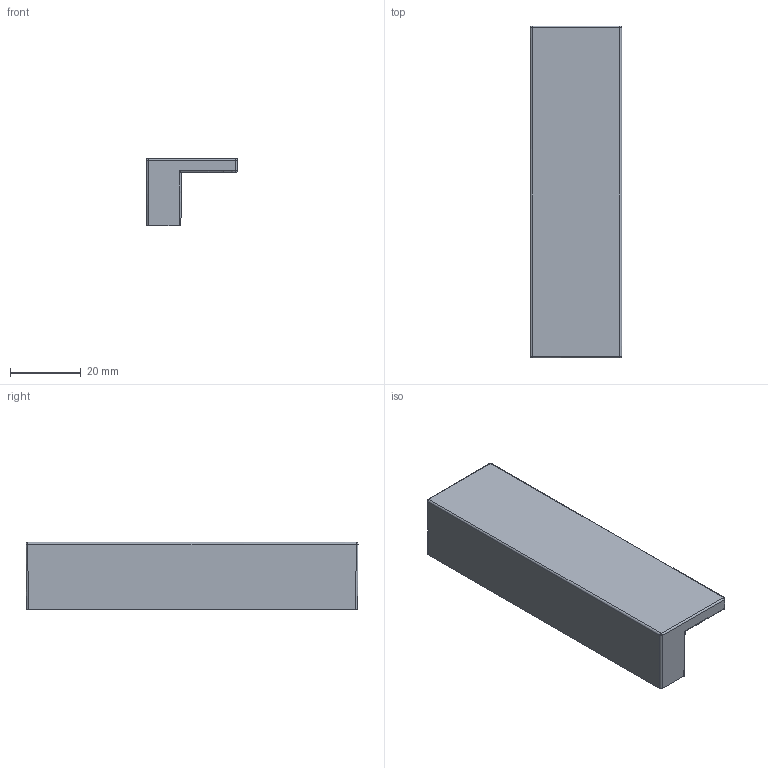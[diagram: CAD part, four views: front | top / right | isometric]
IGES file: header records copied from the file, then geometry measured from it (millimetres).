
Start section: C
Global section: file name: 8124-94.igs; native system: By Siemens PLM Incorporated; preprocessor: XPlus GENERIC/IGES 16.0.42; author: Author; organization: Title; date: 20231122.152931; units: millimetre
Bounding box: 25.9 x 94.19 x 19.09 mm (x, y, z)
Surface area: 12966.1 mm2 (no closed solid volume)
Topology: 0 solids, 0 shells, 228 faces, 1370 edges, 1362 vertices
Faces by surface type: bspline 228
